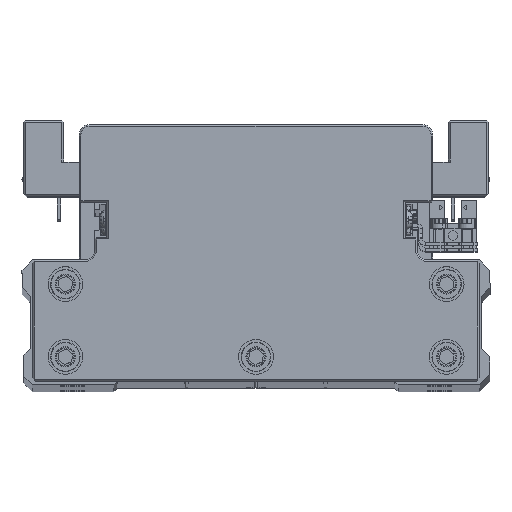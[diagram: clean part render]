
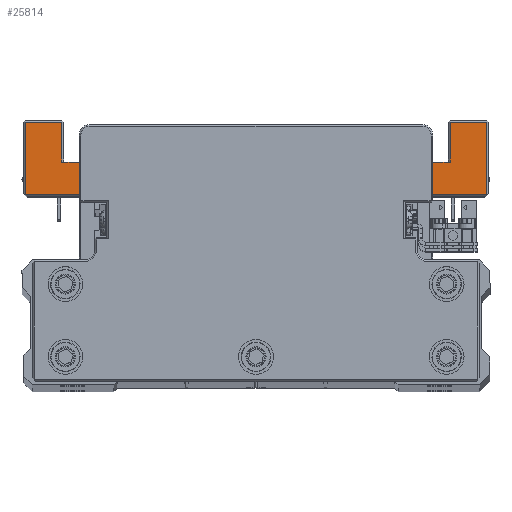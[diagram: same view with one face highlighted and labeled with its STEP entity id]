
A CAD part, top view. The second image highlights one B-rep face of the part: STEP entity #25814.
In plain terms, the highlighted planar face has unit normal (0, 0, 1) as drawn and (0, -1, 0) by its records, which use the part's own axes.
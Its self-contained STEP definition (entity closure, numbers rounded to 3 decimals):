
#174 = LINE ( 'NONE', #12668, #15532 ) ;
#320 = EDGE_CURVE ( 'NONE', #6596, #32144, #22783, .T. ) ;
#421 = ORIENTED_EDGE ( 'NONE', *, *, #639, .T. ) ;
#579 = CARTESIAN_POINT ( 'NONE',  ( -66.5, -45., -64. ) ) ;
#639 = EDGE_CURVE ( 'NONE', #38836, #11104, #12267, .T. ) ;
#645 = CARTESIAN_POINT ( 'NONE',  ( -39.868, -45., -42.987 ) ) ;
#1740 = LINE ( 'NONE', #14257, #15385 ) ;
#2045 = EDGE_CURVE ( 'NONE', #28927, #16707, #174, .T. ) ;
#2621 = EDGE_CURVE ( 'NONE', #33750, #6596, #26169, .T. ) ;
#2641 = VECTOR ( 'NONE', #10856, 1000. ) ;
#2687 = EDGE_CURVE ( 'NONE', #17067, #35344, #1740, .T. ) ;
#2867 = LINE ( 'NONE', #15389, #37519 ) ;
#3922 = DIRECTION ( 'NONE',  ( 0., 0., -1. ) ) ;
#3984 = EDGE_CURVE ( 'NONE', #39070, #16707, #5323, .T. ) ;
#4217 = CARTESIAN_POINT ( 'NONE',  ( -40.066, -45., -43. ) ) ;
#4327 = VECTOR ( 'NONE', #18065, 1000. ) ;
#4359 = CARTESIAN_POINT ( 'NONE',  ( -56., -45., -52.5 ) ) ;
#4451 = CARTESIAN_POINT ( 'NONE',  ( -55.5, -45., -64. ) ) ;
#4823 = ORIENTED_EDGE ( 'NONE', *, *, #38455, .T. ) ;
#4996 = EDGE_CURVE ( 'NONE', #17067, #39070, #37814, .T. ) ;
#5220 = DIRECTION ( 'NONE',  ( 0., -1., 0. ) ) ;
#5323 = LINE ( 'NONE', #17857, #33161 ) ;
#5496 = ORIENTED_EDGE ( 'NONE', *, *, #30065, .T. ) ;
#5525 = CARTESIAN_POINT ( 'NONE',  ( 55.5, -45., -52.5 ) ) ;
#6264 = AXIS2_PLACEMENT_3D ( 'NONE', #14003, #26532, #39047 ) ;
#6596 = VERTEX_POINT ( 'NONE', #12513 ) ;
#7159 = DIRECTION ( 'NONE',  ( 1., 0., 0. ) ) ;
#7410 = VERTEX_POINT ( 'NONE', #8945 ) ;
#7612 = ORIENTED_EDGE ( 'NONE', *, *, #8654, .T. ) ;
#7640 = LINE ( 'NONE', #20183, #34249 ) ;
#8135 = VERTEX_POINT ( 'NONE', #4217 ) ;
#8308 = FACE_OUTER_BOUND ( 'NONE', #33592, .T. ) ;
#8654 = EDGE_CURVE ( 'NONE', #21849, #17861, #36769, .T. ) ;
#8656 = CARTESIAN_POINT ( 'NONE',  ( -77.786, -45., -42.5 ) ) ;
#8915 = EDGE_CURVE ( 'NONE', #7410, #8135, #22483, .T. ) ;
#8945 = CARTESIAN_POINT ( 'NONE',  ( -39.868, -45., -42.987 ) ) ;
#9650 = ORIENTED_EDGE ( 'NONE', *, *, #27331, .T. ) ;
#9688 = CARTESIAN_POINT ( 'NONE',  ( -46., -45., -52.5 ) ) ;
#9854 = ORIENTED_EDGE ( 'NONE', *, *, #2687, .T. ) ;
#10213 = LINE ( 'NONE', #22757, #19805 ) ;
#10281 = VERTEX_POINT ( 'NONE', #10476 ) ;
#10476 = CARTESIAN_POINT ( 'NONE',  ( 46., -45., -52.5 ) ) ;
#10500 = DIRECTION ( 'NONE',  ( -0.991, 0., 0.132 ) ) ;
#10532 = DIRECTION ( 'NONE',  ( 0., 0., -1. ) ) ;
#10856 = DIRECTION ( 'NONE',  ( -1., 0., 0. ) ) ;
#11104 = VERTEX_POINT ( 'NONE', #579 ) ;
#11458 = VECTOR ( 'NONE', #7159, 1000. ) ;
#11696 = CARTESIAN_POINT ( 'NONE',  ( -66.5, -45., -43. ) ) ;
#12088 = VECTOR ( 'NONE', #10532, 1000. ) ;
#12267 = LINE ( 'NONE', #24796, #35081 ) ;
#12513 = CARTESIAN_POINT ( 'NONE',  ( 56., -45., -64. ) ) ;
#12668 = CARTESIAN_POINT ( 'NONE',  ( -56., -45., -52.5 ) ) ;
#12955 = CARTESIAN_POINT ( 'NONE',  ( -46., -45., -54. ) ) ;
#13105 = CARTESIAN_POINT ( 'NONE',  ( -46., -45., -52.5 ) ) ;
#13145 = DIRECTION ( 'NONE',  ( -0.991, 0., -0.132 ) ) ;
#13561 = CARTESIAN_POINT ( 'NONE',  ( 66.5, -45., -43. ) ) ;
#14003 = CARTESIAN_POINT ( 'NONE',  ( 40.066, -45., -41.5 ) ) ;
#14257 = CARTESIAN_POINT ( 'NONE',  ( 46., -45., -54. ) ) ;
#14263 = ORIENTED_EDGE ( 'NONE', *, *, #21393, .T. ) ;
#14758 = ORIENTED_EDGE ( 'NONE', *, *, #2621, .T. ) ;
#15385 = VECTOR ( 'NONE', #26776, 1000. ) ;
#15389 = CARTESIAN_POINT ( 'NONE',  ( -66., -45., -43. ) ) ;
#15532 = VECTOR ( 'NONE', #25210, 1000. ) ;
#16582 = CARTESIAN_POINT ( 'NONE',  ( -56., -45., -64. ) ) ;
#16707 = VERTEX_POINT ( 'NONE', #4359 ) ;
#16978 = DIRECTION ( 'NONE',  ( 1., 0., 0. ) ) ;
#17067 = VERTEX_POINT ( 'NONE', #12955 ) ;
#17470 = AXIS2_PLACEMENT_3D ( 'NONE', #33350, #5220, #17748 ) ;
#17558 = EDGE_CURVE ( 'NONE', #32144, #30130, #10213, .T. ) ;
#17748 = DIRECTION ( 'NONE',  ( 0., 0., -1. ) ) ;
#17857 = CARTESIAN_POINT ( 'NONE',  ( -55.5, -45., -52.5 ) ) ;
#17861 = VERTEX_POINT ( 'NONE', #34951 ) ;
#17969 = EDGE_CURVE ( 'NONE', #10281, #35344, #7640, .T. ) ;
#18065 = DIRECTION ( 'NONE',  ( -1., 0., 0. ) ) ;
#18095 = CARTESIAN_POINT ( 'NONE',  ( 56., -45., -52.5 ) ) ;
#19547 = CARTESIAN_POINT ( 'NONE',  ( -40.066, -45., -41.5 ) ) ;
#19612 = VERTEX_POINT ( 'NONE', #31902 ) ;
#19805 = VECTOR ( 'NONE', #35269, 1000. ) ;
#19944 = ORIENTED_EDGE ( 'NONE', *, *, #24973, .T. ) ;
#20183 = CARTESIAN_POINT ( 'NONE',  ( 46., -45., -52.5 ) ) ;
#20838 = PLANE ( 'NONE',  #17470 ) ;
#20894 = CARTESIAN_POINT ( 'NONE',  ( 40.066, -45., -43. ) ) ;
#21121 = VECTOR ( 'NONE', #16978, 1000. ) ;
#21187 = DIRECTION ( 'NONE',  ( -1., 0., 0. ) ) ;
#21393 = EDGE_CURVE ( 'NONE', #11104, #28927, #32570, .T. ) ;
#21673 = ORIENTED_EDGE ( 'NONE', *, *, #4996, .F. ) ;
#21849 = VERTEX_POINT ( 'NONE', #23880 ) ;
#22226 = DIRECTION ( 'NONE',  ( 0., 0., 1. ) ) ;
#22473 = VECTOR ( 'NONE', #13145, 1000. ) ;
#22483 = CIRCLE ( 'NONE', #27730, 1.5 ) ;
#22757 = CARTESIAN_POINT ( 'NONE',  ( 66.5, -45., -43.5 ) ) ;
#22783 = LINE ( 'NONE', #35292, #11458 ) ;
#23728 = CARTESIAN_POINT ( 'NONE',  ( 46., -45., -54. ) ) ;
#23880 = CARTESIAN_POINT ( 'NONE',  ( 36.217, -45., -42.5 ) ) ;
#23963 = CIRCLE ( 'NONE', #6264, 1.5 ) ;
#24628 = ORIENTED_EDGE ( 'NONE', *, *, #320, .T. ) ;
#24796 = CARTESIAN_POINT ( 'NONE',  ( -66.5, -45., -64.5 ) ) ;
#24973 = EDGE_CURVE ( 'NONE', #31772, #19612, #23963, .T. ) ;
#25210 = DIRECTION ( 'NONE',  ( 0., 0., 1. ) ) ;
#25252 = VECTOR ( 'NONE', #10500, 1000. ) ;
#25527 = EDGE_CURVE ( 'NONE', #33750, #10281, #33639, .T. ) ;
#25814 = ADVANCED_FACE ( 'NONE', ( #8308 ), #20838, .T. ) ;
#26037 = VECTOR ( 'NONE', #22226, 1000. ) ;
#26135 = LINE ( 'NONE', #38623, #25252 ) ;
#26169 = LINE ( 'NONE', #38659, #12088 ) ;
#26464 = LINE ( 'NONE', #38976, #2641 ) ;
#26532 = DIRECTION ( 'NONE',  ( 0., 1., 0. ) ) ;
#26776 = DIRECTION ( 'NONE',  ( 1., 0., 0. ) ) ;
#27016 = ORIENTED_EDGE ( 'NONE', *, *, #25527, .F. ) ;
#27331 = EDGE_CURVE ( 'NONE', #30130, #31772, #26464, .T. ) ;
#27730 = AXIS2_PLACEMENT_3D ( 'NONE', #19547, #32052, #3922 ) ;
#27917 = DIRECTION ( 'NONE',  ( -1., 0., 0. ) ) ;
#28769 = LINE ( 'NONE', #645, #22473 ) ;
#28908 = ORIENTED_EDGE ( 'NONE', *, *, #3984, .F. ) ;
#28927 = VERTEX_POINT ( 'NONE', #16582 ) ;
#29425 = VECTOR ( 'NONE', #21187, 1000. ) ;
#30065 = EDGE_CURVE ( 'NONE', #17861, #7410, #28769, .T. ) ;
#30130 = VERTEX_POINT ( 'NONE', #13561 ) ;
#30227 = CARTESIAN_POINT ( 'NONE',  ( 66.5, -45., -64. ) ) ;
#30385 = DIRECTION ( 'NONE',  ( -1., 0., 0. ) ) ;
#31447 = EDGE_CURVE ( 'NONE', #8135, #38836, #2867, .T. ) ;
#31657 = ORIENTED_EDGE ( 'NONE', *, *, #31447, .T. ) ;
#31772 = VERTEX_POINT ( 'NONE', #20894 ) ;
#31902 = CARTESIAN_POINT ( 'NONE',  ( 39.868, -45., -42.987 ) ) ;
#32052 = DIRECTION ( 'NONE',  ( 0., 1., 0. ) ) ;
#32144 = VERTEX_POINT ( 'NONE', #30227 ) ;
#32570 = LINE ( 'NONE', #4451, #21121 ) ;
#32684 = DIRECTION ( 'NONE',  ( 0., 0., -1. ) ) ;
#33161 = VECTOR ( 'NONE', #30385, 1000. ) ;
#33269 = ORIENTED_EDGE ( 'NONE', *, *, #2045, .T. ) ;
#33350 = CARTESIAN_POINT ( 'NONE',  ( 0., -45., 0. ) ) ;
#33592 = EDGE_LOOP ( 'NONE', ( #7612, #5496, #36940, #31657, #421, #14263, #33269, #28908, #21673, #9854, #36077, #27016, #14758, #24628, #37497, #9650, #19944, #4823 ) ) ;
#33639 = LINE ( 'NONE', #5525, #4327 ) ;
#33750 = VERTEX_POINT ( 'NONE', #18095 ) ;
#34249 = VECTOR ( 'NONE', #32684, 1000. ) ;
#34951 = CARTESIAN_POINT ( 'NONE',  ( -36.217, -45., -42.5 ) ) ;
#35081 = VECTOR ( 'NONE', #37301, 1000. ) ;
#35269 = DIRECTION ( 'NONE',  ( 0., 0., 1. ) ) ;
#35292 = CARTESIAN_POINT ( 'NONE',  ( 67., -45., -64. ) ) ;
#35344 = VERTEX_POINT ( 'NONE', #23728 ) ;
#36077 = ORIENTED_EDGE ( 'NONE', *, *, #17969, .F. ) ;
#36769 = LINE ( 'NONE', #8656, #29425 ) ;
#36940 = ORIENTED_EDGE ( 'NONE', *, *, #8915, .T. ) ;
#37301 = DIRECTION ( 'NONE',  ( 0., 0., -1. ) ) ;
#37497 = ORIENTED_EDGE ( 'NONE', *, *, #17558, .T. ) ;
#37519 = VECTOR ( 'NONE', #27917, 1000. ) ;
#37814 = LINE ( 'NONE', #9688, #26037 ) ;
#38455 = EDGE_CURVE ( 'NONE', #19612, #21849, #26135, .T. ) ;
#38623 = CARTESIAN_POINT ( 'NONE',  ( 25.802, -45., -41.111 ) ) ;
#38659 = CARTESIAN_POINT ( 'NONE',  ( 56., -45., -64.5 ) ) ;
#38836 = VERTEX_POINT ( 'NONE', #11696 ) ;
#38976 = CARTESIAN_POINT ( 'NONE',  ( 40.066, -45., -43. ) ) ;
#39047 = DIRECTION ( 'NONE',  ( 0., 0., -1. ) ) ;
#39070 = VERTEX_POINT ( 'NONE', #13105 ) ;
